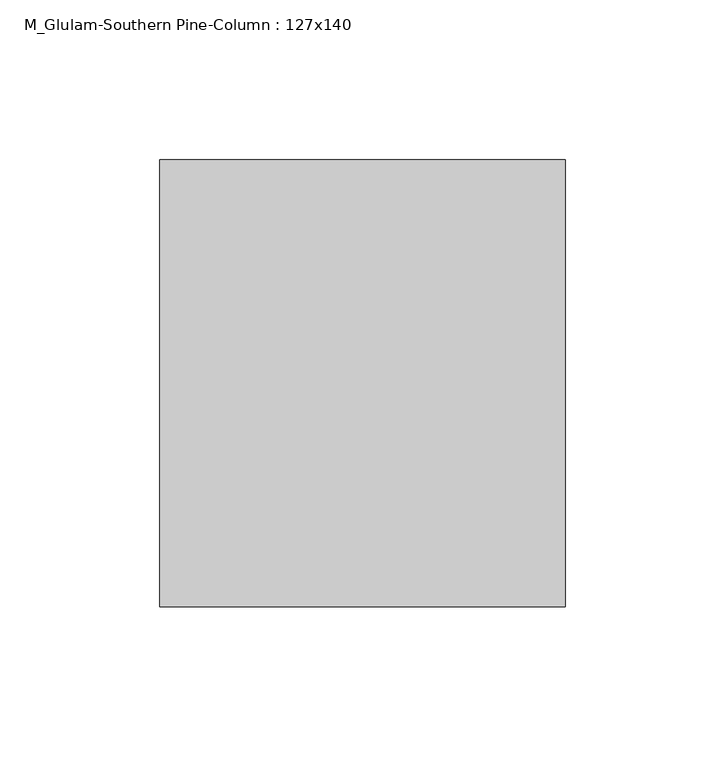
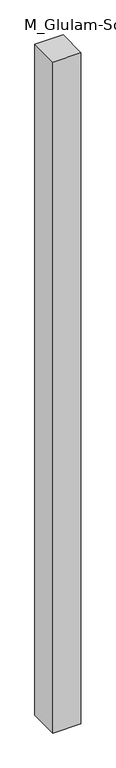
"""IFC4 building model written with IfcOpenShell, lengths in millimetres: column geometry, M_Glulam-Southern Pine-Column : 127x140."""

import ifcopenshell
import ifcopenshell.guid

model = None  # the IFC model being written
_history = None  # IfcOwnerHistory: only IFC2X3 demands one
_inside = {}  # id of a spatial element -> (the spatial element, [elements in it])
_under = {}  # id of a project, library or spatial element -> (it, [spatial elements below it])
_declared = {}  # id of a project -> (the project, [libraries it declares])
_typed = {}  # id of a type object -> (the type object, [elements of that type])
_made_of = {}  # id of a material, layer set ... -> (it, [elements and type objects made of it])


def new_model(schema):
    """Start an empty IFC model of exactly this schema.

    Asked for "IFC4X3", IfcOpenShell would pick the latest addendum, in which some entities
    have other attributes; the version numbers below select the first issue.
    IFC2X3 requires an IfcOwnerHistory on every rooted entity: one is made here for all.
    """
    global model, _history
    if schema == "IFC4X3":
        model = ifcopenshell.file(schema_version=(4, 3, 0, 0))
    else:
        model = ifcopenshell.file(schema=schema)
    _inside.clear()
    _under.clear()
    _declared.clear()
    _typed.clear()
    _made_of.clear()
    _history = None
    if model.schema == "IFC2X3":
        org = make("IfcOrganization", Name="unknown")
        user = make(
            "IfcPersonAndOrganization",
            ThePerson=make("IfcPerson", FamilyName="unknown"),
            TheOrganization=org,
        )
        app = make(
            "IfcApplication",
            ApplicationDeveloper=org,
            Version="unknown",
            ApplicationFullName="unknown",
            ApplicationIdentifier="unknown",
        )
        _history = make(
            "IfcOwnerHistory",
            OwningUser=user,
            OwningApplication=app,
            ChangeAction="ADDED",
            CreationDate=0,
        )
    return model


def make(cls, **values):
    """One entity of the class cls with the attributes given. An attribute that is None is left unset."""
    return model.create_entity(
        cls, **{name: value for name, value in values.items() if value is not None}
    )


def rooted(cls, **values):
    """An entity with a GlobalId (a new one), such as an element, a storey or a relation."""
    return make(cls, GlobalId=ifcopenshell.guid.new(), OwnerHistory=_history, **values)


def si_unit(unit_type, name, prefix=None):
    """IfcSIUnit, for example si_unit("LENGTHUNIT", "METRE", prefix="MILLI")."""
    return make("IfcSIUnit", UnitType=unit_type, Prefix=prefix, Name=name)


def assignment(units):
    """IfcUnitAssignment: the units of a project."""
    return None if units is None else make("IfcUnitAssignment", Units=units)


def point(xyz):
    """IfcCartesianPoint."""
    return None if xyz is None else make("IfcCartesianPoint", Coordinates=xyz)


def direction(xyz):
    """IfcDirection."""
    return None if xyz is None else make("IfcDirection", DirectionRatios=xyz)


def frame(location, z_axis=None, x_axis=None):
    """IfcAxis2Placement3D, a coordinate frame: its origin and axes. An axis left out is left unset."""
    return make(
        "IfcAxis2Placement3D",
        Location=point(location),
        Axis=direction(z_axis),
        RefDirection=direction(x_axis),
    )


def origin():
    """The frame at (0, 0, 0) with its axes left unset."""
    return frame((0.0, 0.0, 0.0))


def origin_with_axes():
    """The frame at (0, 0, 0) with the z axis (0, 0, 1) and the x axis (1, 0, 0) written out."""
    return frame((0.0, 0.0, 0.0), z_axis=(0.0, 0.0, 1.0), x_axis=(1.0, 0.0, 0.0))


def place(relative_to, where):
    """IfcLocalPlacement: puts the frame where relative to a parent placement (None: the world)."""
    return make(
        "IfcLocalPlacement", PlacementRelTo=relative_to, RelativePlacement=where
    )


def context(
    kind, dimensions, precision=None, world=None, true_north=None, identifier=None
):
    """IfcGeometricRepresentationContext, for example the 3D "Model" context."""
    return make(
        "IfcGeometricRepresentationContext",
        ContextIdentifier=identifier,
        ContextType=kind,
        CoordinateSpaceDimension=dimensions,
        Precision=precision,
        WorldCoordinateSystem=world,
        TrueNorth=true_north,
    )


def project(units=None, contexts=None):
    """IfcProject with its units and contexts."""
    return rooted(
        "IfcProject",
        Name="project",
        RepresentationContexts=contexts,
        UnitsInContext=assignment(units),
    )


def spatial(cls, under=None, at=None, **own):
    """A site, building, storey or space (cls), placed at a placement, below another one or the project."""
    s = rooted(cls, ObjectPlacement=at, **own)
    if under is not None:
        _under.setdefault(under.id(), (under, []))[1].append(s)
    return s


def polyline(points):
    """IfcPolyline through the points."""
    return make("IfcPolyline", Points=[point(p) for p in points])


def outline(outer, holes=None, kind="AREA"):
    """IfcArbitraryClosedProfileDef: a profile drawn as a closed curve; with holes, ...WithVoids."""
    if holes is None:
        return make("IfcArbitraryClosedProfileDef", ProfileType=kind, OuterCurve=outer)
    return make(
        "IfcArbitraryProfileDefWithVoids",
        ProfileType=kind,
        OuterCurve=outer,
        InnerCurves=holes,
    )


def extrude(swept, where, along, depth):
    """IfcExtrudedAreaSolid: the profile swept, set in the frame where, extruded along a direction by depth."""
    return make(
        "IfcExtrudedAreaSolid",
        SweptArea=swept,
        Position=where,
        ExtrudedDirection=direction(along),
        Depth=depth,
    )


def shape(context_of_items, identifier, shape_type, items):
    """IfcShapeRepresentation: the items that make up one representation, for example the "Body"."""
    return make(
        "IfcShapeRepresentation",
        ContextOfItems=context_of_items,
        RepresentationIdentifier=identifier,
        RepresentationType=shape_type,
        Items=items,
    )


def source(mapping_origin, context_of_items, identifier, shape_type, items):
    """IfcRepresentationMap: a shape defined once, which mapped items show again and again."""
    return make(
        "IfcRepresentationMap",
        MappingOrigin=mapping_origin,
        MappedRepresentation=shape(context_of_items, identifier, shape_type, items),
    )


def transform(
    local_origin,
    x_axis=None,
    y_axis=None,
    z_axis=None,
    scale=None,
    scale2=None,
    scale3=None,
    uniform=True,
):
    """IfcCartesianTransformationOperator3D, or its non-uniform kind. x_axis, y_axis, z_axis: its Axis1, 2, 3."""
    if uniform:
        return make(
            "IfcCartesianTransformationOperator3D",
            Axis1=direction(x_axis),
            Axis2=direction(y_axis),
            LocalOrigin=point(local_origin),
            Scale=scale,
            Axis3=direction(z_axis),
        )
    return make(
        "IfcCartesianTransformationOperator3DnonUniform",
        Axis1=direction(x_axis),
        Axis2=direction(y_axis),
        LocalOrigin=point(local_origin),
        Scale=scale,
        Axis3=direction(z_axis),
        Scale2=scale2,
        Scale3=scale3,
    )


def mapped(mapping_source, mapping_target):
    """IfcMappedItem: shows the shape of a source again, moved by a transform."""
    return make(
        "IfcMappedItem", MappingSource=mapping_source, MappingTarget=mapping_target
    )


def made_of(thing, what):
    """Note that an element or type object is made of a material, layer set ...; save() writes the relation."""
    if what is not None:
        _made_of.setdefault(what.id(), (what, []))[1].append(thing)
    return thing


def element(
    cls,
    number,
    at=None,
    inside=None,
    cuts=None,
    type_object=None,
    material=None,
    context=None,
    identifier="Body",
    shape_type=None,
    held_by="IfcProductDefinitionShape",
    body=None,
    shapes=None,
    **own,
):
    """One element of the class cls, such as IfcWall. Its Tag is "e" and its number.

    at: its placement. inside: the storey or other place that contains it. cuts: it is an
    opening in that element (IfcRelVoidsElement). A single representation is given by context,
    identifier, shape_type and body (its items); several are given by shapes. held_by: the class
    of the entity that holds the representations. save() writes the other relations.
    """
    e = rooted(cls, Tag="e%d" % number, ObjectPlacement=at, **own)
    if body is not None:
        shapes = [shape(context, identifier, shape_type, body)]
    if shapes is not None:
        e.Representation = make(held_by, Representations=shapes)
    if inside is not None:
        _inside.setdefault(inside.id(), (inside, []))[1].append(e)
    if cuts is not None:
        rooted(
            "IfcRelVoidsElement", RelatingBuildingElement=cuts, RelatedOpeningElement=e
        )
    if type_object is not None:
        _typed.setdefault(type_object.id(), (type_object, []))[1].append(e)
    return made_of(e, material)


def aggregate(whole, parts):
    """IfcRelAggregates: a whole, such as a stair, and the parts it consists of."""
    return rooted("IfcRelAggregates", RelatingObject=whole, RelatedObjects=parts)


def save(model, path):
    """Write the relations noted so far, then the file.

    IfcRelAggregates (storeys below a building ...), IfcRelContainedInSpatialStructure (elements
    in a storey), IfcRelDefinesByType, IfcRelAssociatesMaterial and IfcRelDeclares: one each for
    every whole, place, type object, material and project.
    """
    for whole, parts in _under.values():
        aggregate(whole, parts)
    for where, things in _inside.values():
        rooted(
            "IfcRelContainedInSpatialStructure",
            RelatedElements=things,
            RelatingStructure=where,
        )
    for kind, things in _typed.values():
        rooted("IfcRelDefinesByType", RelatedObjects=things, RelatingType=kind)
    for what, things in _made_of.values():
        rooted("IfcRelAssociatesMaterial", RelatedObjects=things, RelatingMaterial=what)
    for by, libraries in _declared.values():
        rooted("IfcRelDeclares", RelatingContext=by, RelatedDefinitions=libraries)
    model.write(path)


def m_glulam_southern_pine_column_127x140_dd4b0262(model_context):
    return source(origin(), model_context, "Body", "SweptSolid", [
        extrude(outline(polyline([(63.5, 70.0), (63.5, -70.0), (-63.5, -70.0), (-63.5, 70.0), (63.5, 70.0)])), origin_with_axes(), (0.0, 0.0, 1.0), 3200.0),
    ])


if __name__ == "__main__":
    model = new_model("IFC4")
    model_context = context("Model", 3, world=origin())
    ifc_project = project(units=[si_unit("LENGTHUNIT", "METRE", prefix="MILLI")], contexts=[model_context])
    site = spatial("IfcSite", under=ifc_project)
    building = spatial("IfcBuilding", under=site)
    placement = place(None, origin())
    m_glulam_southern_pine_column_127x140_shape = m_glulam_southern_pine_column_127x140_dd4b0262(model_context)
    element("IfcColumn", 1, ObjectType="M_Glulam-Southern Pine-Column : 127x140", at=placement, inside=building, context=model_context, shape_type="MappedRepresentation", body=[
        mapped(m_glulam_southern_pine_column_127x140_shape, transform((0.0, 0.0, 0.0), x_axis=(1.0, 0.0, 0.0), y_axis=(0.0, 1.0, 0.0), z_axis=(0.0, 0.0, 1.0))),
    ])
    save(model, "model.ifc")
